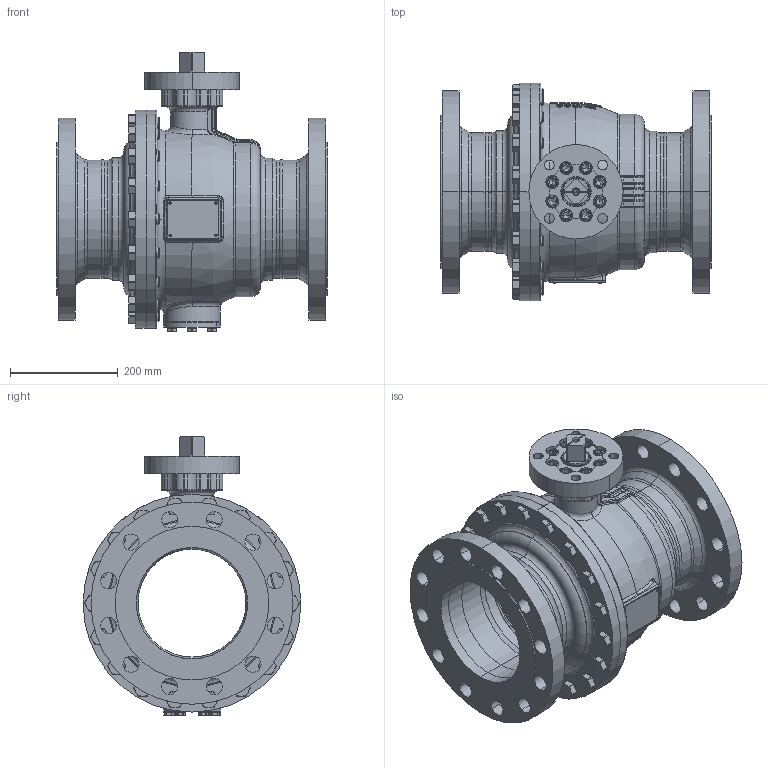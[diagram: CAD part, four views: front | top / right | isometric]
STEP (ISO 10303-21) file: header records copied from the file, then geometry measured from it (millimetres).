
FILE_DESCRIPTION((''),'2;1');
FILE_NAME('KHI-F_200_PN040-F14--_SW0001','2026-02-05T12:37:43',('fischerkl'),('KLINGER'),'CREO PARAMETRIC BY PTC INC, 2023014','CREO PARAMETRIC BY PTC INC, 2023014','');
FILE_SCHEMA(('CONFIG_CONTROL_DESIGN'));
Products named in the file (1): KHI-F_200_PN040-F14--_SW0001
Bounding box: 502 x 404 x 519.2 mm (x, y, z)
Volume: 14782324.5 mm3; surface area: 2420452.9 mm2
Topology: 1 solids, 4 shells, 2937 faces, 7354 edges, 4559 vertices
Faces by surface type: plane 1414, cylinder 718, cone 364, torus 303, bspline 108, sphere 30
Entity records: 120999 total; most frequent: CARTESIAN_POINT 51589, ORIENTED_EDGE 14656, DIRECTION 14407, EDGE_CURVE 7328, AXIS2_PLACEMENT_3D 5563, VERTEX_POINT 4559, VECTOR 3281, LINE 3281
